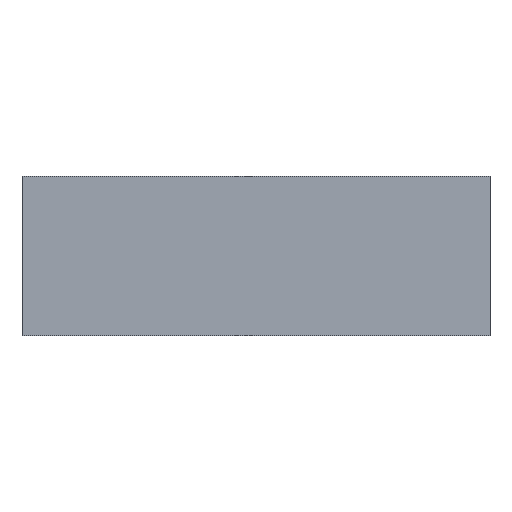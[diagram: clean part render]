
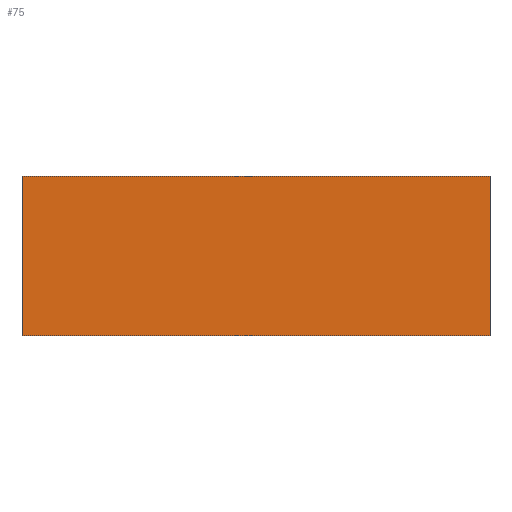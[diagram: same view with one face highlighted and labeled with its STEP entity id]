
A CAD part, front view. The second image highlights one B-rep face of the part: STEP entity #75.
In plain terms, the highlighted planar face has unit normal (0, -1, 0).
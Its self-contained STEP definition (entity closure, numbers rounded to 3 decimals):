
#4 = ORIENTED_EDGE ( 'NONE', *, *, #295, .T. ) ;
#11 = ORIENTED_EDGE ( 'NONE', *, *, #289, .T. ) ;
#12 = ORIENTED_EDGE ( 'NONE', *, *, #287, .F. ) ;
#29 = EDGE_LOOP ( 'NONE', ( #4, #30, #12, #11 ) ) ;
#30 = ORIENTED_EDGE ( 'NONE', *, *, #282, .F. ) ;
#40 = FACE_OUTER_BOUND ( 'NONE', #29, .T. ) ;
#75 = ADVANCED_FACE ( 'NONE', ( #40 ), #336, .F. ) ;
#86 = DIRECTION ( 'NONE',  ( 0., 1., 0. ) ) ;
#87 = DIRECTION ( 'NONE',  ( -1., 0., 0. ) ) ;
#95 = CARTESIAN_POINT ( 'NONE',  ( -176., 0., 120. ) ) ;
#113 = DIRECTION ( 'NONE',  ( 1., 0., 0. ) ) ;
#120 = CARTESIAN_POINT ( 'NONE',  ( -176., 0., 0. ) ) ;
#121 = DIRECTION ( 'NONE',  ( 0., 0., -1. ) ) ;
#122 = CARTESIAN_POINT ( 'NONE',  ( -176., 0., 120. ) ) ;
#125 = DIRECTION ( 'NONE',  ( 1., 0., 0. ) ) ;
#129 = DIRECTION ( 'NONE',  ( 0., 0., -1. ) ) ;
#130 = CARTESIAN_POINT ( 'NONE',  ( -176., 0., 120. ) ) ;
#134 = CARTESIAN_POINT ( 'NONE',  ( 176., 0., 120. ) ) ;
#177 = CARTESIAN_POINT ( 'NONE',  ( 176., 0., 0. ) ) ;
#187 = CARTESIAN_POINT ( 'NONE',  ( -176., 0., 0. ) ) ;
#191 = CARTESIAN_POINT ( 'NONE',  ( 176., 0., 120. ) ) ;
#223 = LINE ( 'NONE', #134, #230 ) ;
#225 = LINE ( 'NONE', #130, #234 ) ;
#230 = VECTOR ( 'NONE', #129, 1000. ) ;
#234 = VECTOR ( 'NONE', #125, 1000. ) ;
#235 = LINE ( 'NONE', #120, #245 ) ;
#238 = LINE ( 'NONE', #122, #239 ) ;
#239 = VECTOR ( 'NONE', #121, 1000. ) ;
#245 = VECTOR ( 'NONE', #113, 1000. ) ;
#282 = EDGE_CURVE ( 'NONE', #322, #330, #223, .T. ) ;
#287 = EDGE_CURVE ( 'NONE', #316, #322, #225, .T. ) ;
#289 = EDGE_CURVE ( 'NONE', #316, #325, #238, .T. ) ;
#295 = EDGE_CURVE ( 'NONE', #325, #330, #235, .T. ) ;
#304 = AXIS2_PLACEMENT_3D ( 'NONE', #337, #86, #87 ) ;
#316 = VERTEX_POINT ( 'NONE', #95 ) ;
#322 = VERTEX_POINT ( 'NONE', #191 ) ;
#325 = VERTEX_POINT ( 'NONE', #187 ) ;
#330 = VERTEX_POINT ( 'NONE', #177 ) ;
#336 = PLANE ( 'NONE',  #304 ) ;
#337 = CARTESIAN_POINT ( 'NONE',  ( -176., 0., 120. ) ) ;
